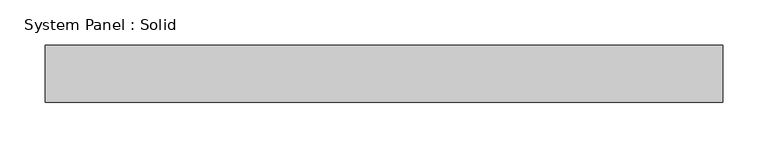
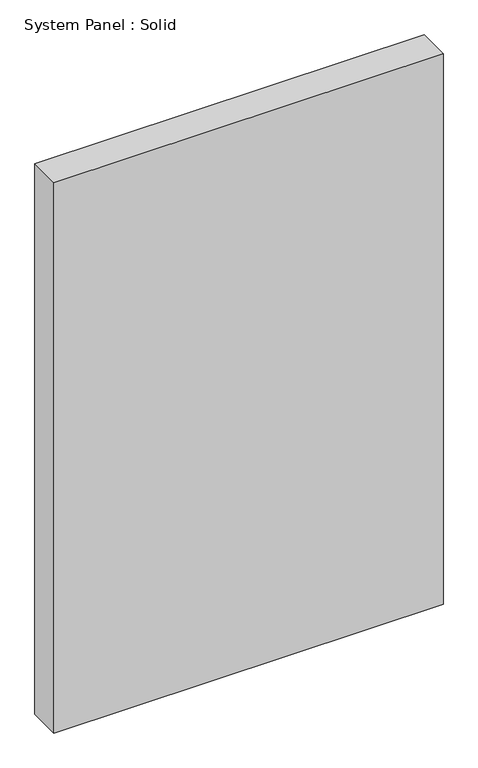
"""IFC4 building model written with IfcOpenShell, lengths in millimetres: plate geometry, System Panel : Solid."""

from ifc_helpers import new_model, si_unit, origin, origin_with_axes, place, context, project, spatial, polyline, outline, extrude, source, transform, mapped, element, save


def system_panel_solid_37f52b2b(model_context):
    return source(origin(), model_context, "Body", "SweptSolid", [
        extrude(outline(polyline([(375.7570972, -19.05), (-375.7570972, -19.05), (-375.7570972, 44.45), (375.7570972, 44.45), (375.7570972, -19.05)])), origin_with_axes(), (0.0, 0.0, 1.0), 1123.95),
    ])


if __name__ == "__main__":
    model = new_model("IFC4")
    model_context = context("Model", 3, world=origin())
    ifc_project = project(units=[si_unit("LENGTHUNIT", "METRE", prefix="MILLI")], contexts=[model_context])
    site = spatial("IfcSite", under=ifc_project)
    building = spatial("IfcBuilding", under=site)
    placement = place(None, origin())
    system_panel_solid_shape = system_panel_solid_37f52b2b(model_context)
    element("IfcPlate", 1, ObjectType="System Panel : Solid", at=placement, inside=building, context=model_context, shape_type="MappedRepresentation", body=[
        mapped(system_panel_solid_shape, transform((0.0, 0.0, 0.0), x_axis=(1.0, 0.0, 0.0), y_axis=(0.0, 1.0, 0.0), z_axis=(0.0, 0.0, 1.0))),
    ])
    save(model, "model.ifc")
